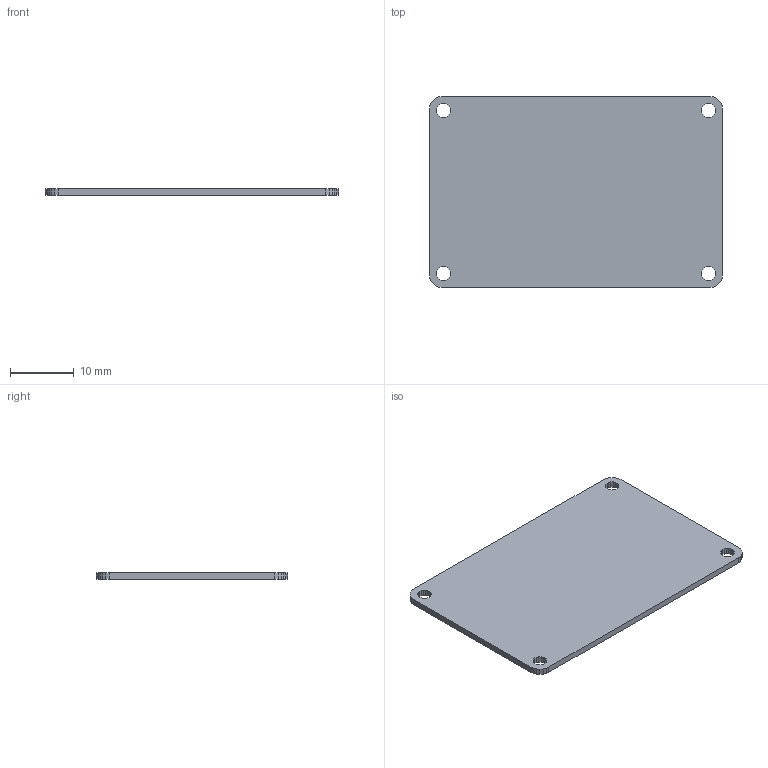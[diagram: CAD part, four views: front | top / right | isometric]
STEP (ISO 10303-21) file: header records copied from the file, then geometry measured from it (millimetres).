
FILE_DESCRIPTION(('AVO Performance Horse - montaje de la cincha (B-rep poliedrico)'),'2;1');
FILE_NAME('PCB_REV_D_46x30','2026-11-15T12:00:00',('AVO Performance Horse'),('AVO Performance Horse'),'avo_cad.py','avo_cad.py (numpy)','');
FILE_SCHEMA(('AUTOMOTIVE_DESIGN { 1 0 10303 214 1 1 1 1 }'));
Length unit declared in the file: millimetre
Products named in the file (1): PCB_REV_D_46x30
Bounding box: 46 x 30 x 1 mm (x, y, z)
Volume: 1361.5 mm3; surface area: 2899 mm2
Topology: 1 solids, 1 shells, 110 faces, 324 edges, 216 vertices
Faces by surface type: plane 110
Entity records: 2695 total; most frequent: ORIENTED_EDGE 648, VECTOR 324, LINE 324, EDGE_CURVE 324, CARTESIAN_POINT 217, VERTEX_POINT 216, EDGE_LOOP 118, AXIS2_PLACEMENT_3D 111
